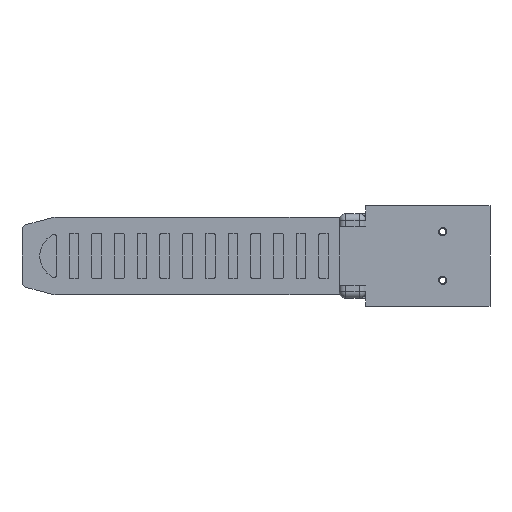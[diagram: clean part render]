
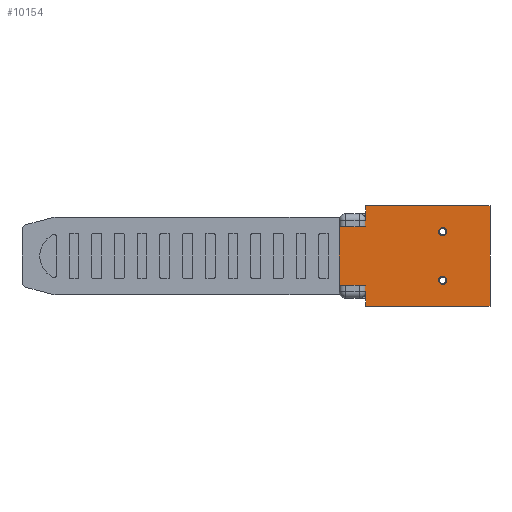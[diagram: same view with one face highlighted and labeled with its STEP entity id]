
A CAD part, front view. The second image highlights one B-rep face of the part: STEP entity #10154.
In plain terms, the highlighted planar face has unit normal (0, -1, 0).
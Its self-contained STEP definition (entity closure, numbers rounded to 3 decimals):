
#386 = ORIENTED_EDGE ( 'NONE', *, *, #5219, .T. ) ;
#635 = VECTOR ( 'NONE', #14893, 1000. ) ;
#963 = EDGE_CURVE ( 'NONE', #16229, #12675, #12239, .T. ) ;
#1195 = CARTESIAN_POINT ( 'NONE',  ( -19., -5., -15.5 ) ) ;
#1210 = EDGE_CURVE ( 'NONE', #1748, #17608, #9392, .T. ) ;
#1253 = ORIENTED_EDGE ( 'NONE', *, *, #6253, .T. ) ;
#1657 = FACE_BOUND ( 'NONE', #17172, .T. ) ;
#1748 = VERTEX_POINT ( 'NONE', #16066 ) ;
#2073 = CARTESIAN_POINT ( 'NONE',  ( -19., -5., 15.5 ) ) ;
#2100 = FACE_BOUND ( 'NONE', #3585, .T. ) ;
#2458 = ORIENTED_EDGE ( 'NONE', *, *, #8708, .T. ) ;
#3083 = CARTESIAN_POINT ( 'NONE',  ( -10.8, -5., 15.5 ) ) ;
#3095 = CARTESIAN_POINT ( 'NONE',  ( 12.9, -5., -8.75 ) ) ;
#3119 = AXIS2_PLACEMENT_3D ( 'NONE', #16499, #8018, #17918 ) ;
#3434 = VECTOR ( 'NONE', #17719, 1000. ) ;
#3585 = EDGE_LOOP ( 'NONE', ( #4981, #6861 ) ) ;
#3903 = EDGE_CURVE ( 'NONE', #16229, #17608, #14618, .T. ) ;
#4190 = DIRECTION ( 'NONE',  ( 0., 1., 0. ) ) ;
#4600 = LINE ( 'NONE', #3083, #11605 ) ;
#4981 = ORIENTED_EDGE ( 'NONE', *, *, #11273, .T. ) ;
#5209 = DIRECTION ( 'NONE',  ( -1., 0., 0. ) ) ;
#5219 = EDGE_CURVE ( 'NONE', #1748, #5875, #10525, .T. ) ;
#5241 = VERTEX_POINT ( 'NONE', #6284 ) ;
#5375 = FACE_OUTER_BOUND ( 'NONE', #6091, .T. ) ;
#5625 = CARTESIAN_POINT ( 'NONE',  ( -10.8, -5., -15.5 ) ) ;
#5875 = VERTEX_POINT ( 'NONE', #11414 ) ;
#6091 = EDGE_LOOP ( 'NONE', ( #7817, #2458, #1253, #16248, #17523, #11970, #18279, #386 ) ) ;
#6253 = EDGE_CURVE ( 'NONE', #17980, #8307, #13737, .T. ) ;
#6284 = CARTESIAN_POINT ( 'NONE',  ( 12.9, -5., -6.25 ) ) ;
#6394 = DIRECTION ( 'NONE',  ( 0., 1., 0. ) ) ;
#6817 = DIRECTION ( 'NONE',  ( 1., 0., 0. ) ) ;
#6861 = ORIENTED_EDGE ( 'NONE', *, *, #12491, .T. ) ;
#6893 = CARTESIAN_POINT ( 'NONE',  ( 12.9, -5., 8.75 ) ) ;
#7029 = CARTESIAN_POINT ( 'NONE',  ( -19., -5., 15.5 ) ) ;
#7275 = EDGE_CURVE ( 'NONE', #12329, #5241, #17943, .T. ) ;
#7327 = CARTESIAN_POINT ( 'NONE',  ( -10.8, -5., 10.9 ) ) ;
#7588 = AXIS2_PLACEMENT_3D ( 'NONE', #7029, #16913, #8445 ) ;
#7620 = VERTEX_POINT ( 'NONE', #6893 ) ;
#7708 = DIRECTION ( 'NONE',  ( 0., 1., 0. ) ) ;
#7817 = ORIENTED_EDGE ( 'NONE', *, *, #12578, .F. ) ;
#8018 = DIRECTION ( 'NONE',  ( 0., 1., 0. ) ) ;
#8307 = VERTEX_POINT ( 'NONE', #10594 ) ;
#8445 = DIRECTION ( 'NONE',  ( 0., 0., 1. ) ) ;
#8708 = EDGE_CURVE ( 'NONE', #17601, #17980, #4600, .T. ) ;
#8785 = DIRECTION ( 'NONE',  ( 0., 0., -1. ) ) ;
#9256 = CARTESIAN_POINT ( 'NONE',  ( -10.8, -5., 15.5 ) ) ;
#9392 = LINE ( 'NONE', #17293, #12701 ) ;
#9454 = ORIENTED_EDGE ( 'NONE', *, *, #16859, .T. ) ;
#9993 = VECTOR ( 'NONE', #6817, 1000. ) ;
#10154 = ADVANCED_FACE ( 'NONE', ( #1657, #2100, #5375 ), #11129, .F. ) ;
#10156 = DIRECTION ( 'NONE',  ( 0., 0., -1. ) ) ;
#10525 = LINE ( 'NONE', #2073, #18058 ) ;
#10594 = CARTESIAN_POINT ( 'NONE',  ( 27.5, -5., -15.5 ) ) ;
#10790 = VERTEX_POINT ( 'NONE', #11603 ) ;
#11129 = PLANE ( 'NONE',  #7588 ) ;
#11211 = EDGE_CURVE ( 'NONE', #12675, #8307, #13201, .T. ) ;
#11273 = EDGE_CURVE ( 'NONE', #7620, #10790, #13400, .T. ) ;
#11414 = CARTESIAN_POINT ( 'NONE',  ( -19., -5., -10.9 ) ) ;
#11603 = CARTESIAN_POINT ( 'NONE',  ( 12.9, -5., 6.25 ) ) ;
#11605 = VECTOR ( 'NONE', #10156, 1000. ) ;
#11859 = DIRECTION ( 'NONE',  ( 0., 0., -1. ) ) ;
#11970 = ORIENTED_EDGE ( 'NONE', *, *, #3903, .T. ) ;
#12087 = CARTESIAN_POINT ( 'NONE',  ( -10.8, -5., 15.5 ) ) ;
#12239 = LINE ( 'NONE', #14866, #635 ) ;
#12329 = VERTEX_POINT ( 'NONE', #3095 ) ;
#12491 = EDGE_CURVE ( 'NONE', #10790, #7620, #17575, .T. ) ;
#12578 = EDGE_CURVE ( 'NONE', #17601, #5875, #14441, .T. ) ;
#12587 = CARTESIAN_POINT ( 'NONE',  ( 12.9, -5., -7.5 ) ) ;
#12675 = VERTEX_POINT ( 'NONE', #18090 ) ;
#12701 = VECTOR ( 'NONE', #17991, 1000. ) ;
#12743 = CIRCLE ( 'NONE', #15761, 1.25 ) ;
#13122 = AXIS2_PLACEMENT_3D ( 'NONE', #12587, #4190, #13992 ) ;
#13201 = LINE ( 'NONE', #15810, #16535 ) ;
#13400 = CIRCLE ( 'NONE', #3119, 1.25 ) ;
#13605 = CARTESIAN_POINT ( 'NONE',  ( -19., -5., -10.9 ) ) ;
#13737 = LINE ( 'NONE', #1195, #9993 ) ;
#13992 = DIRECTION ( 'NONE',  ( 0., 0., 1. ) ) ;
#14441 = LINE ( 'NONE', #13605, #15787 ) ;
#14618 = LINE ( 'NONE', #9256, #3434 ) ;
#14816 = CARTESIAN_POINT ( 'NONE',  ( 12.9, -5., -7.5 ) ) ;
#14866 = CARTESIAN_POINT ( 'NONE',  ( -19., -5., 15.5 ) ) ;
#14893 = DIRECTION ( 'NONE',  ( 1., 0., 0. ) ) ;
#15761 = AXIS2_PLACEMENT_3D ( 'NONE', #14816, #6394, #16275 ) ;
#15787 = VECTOR ( 'NONE', #5209, 1000. ) ;
#15795 = CARTESIAN_POINT ( 'NONE',  ( -10.8, -5., -10.9 ) ) ;
#15810 = CARTESIAN_POINT ( 'NONE',  ( 27.5, -5., 15.5 ) ) ;
#16066 = CARTESIAN_POINT ( 'NONE',  ( -19., -5., 10.9 ) ) ;
#16179 = CARTESIAN_POINT ( 'NONE',  ( 12.9, -5., 7.5 ) ) ;
#16229 = VERTEX_POINT ( 'NONE', #12087 ) ;
#16248 = ORIENTED_EDGE ( 'NONE', *, *, #11211, .F. ) ;
#16275 = DIRECTION ( 'NONE',  ( 0., 0., 1. ) ) ;
#16333 = AXIS2_PLACEMENT_3D ( 'NONE', #16179, #7708, #17603 ) ;
#16499 = CARTESIAN_POINT ( 'NONE',  ( 12.9, -5., 7.5 ) ) ;
#16535 = VECTOR ( 'NONE', #8785, 1000. ) ;
#16859 = EDGE_CURVE ( 'NONE', #5241, #12329, #12743, .T. ) ;
#16913 = DIRECTION ( 'NONE',  ( 0., 1., 0. ) ) ;
#16940 = ORIENTED_EDGE ( 'NONE', *, *, #7275, .T. ) ;
#17172 = EDGE_LOOP ( 'NONE', ( #9454, #16940 ) ) ;
#17293 = CARTESIAN_POINT ( 'NONE',  ( -19., -5., 10.9 ) ) ;
#17523 = ORIENTED_EDGE ( 'NONE', *, *, #963, .F. ) ;
#17575 = CIRCLE ( 'NONE', #16333, 1.25 ) ;
#17601 = VERTEX_POINT ( 'NONE', #15795 ) ;
#17603 = DIRECTION ( 'NONE',  ( 0., 0., 1. ) ) ;
#17608 = VERTEX_POINT ( 'NONE', #7327 ) ;
#17719 = DIRECTION ( 'NONE',  ( 0., 0., -1. ) ) ;
#17918 = DIRECTION ( 'NONE',  ( 0., 0., 1. ) ) ;
#17943 = CIRCLE ( 'NONE', #13122, 1.25 ) ;
#17980 = VERTEX_POINT ( 'NONE', #5625 ) ;
#17991 = DIRECTION ( 'NONE',  ( 1., 0., 0. ) ) ;
#18058 = VECTOR ( 'NONE', #11859, 1000. ) ;
#18090 = CARTESIAN_POINT ( 'NONE',  ( 27.5, -5., 15.5 ) ) ;
#18279 = ORIENTED_EDGE ( 'NONE', *, *, #1210, .F. ) ;
